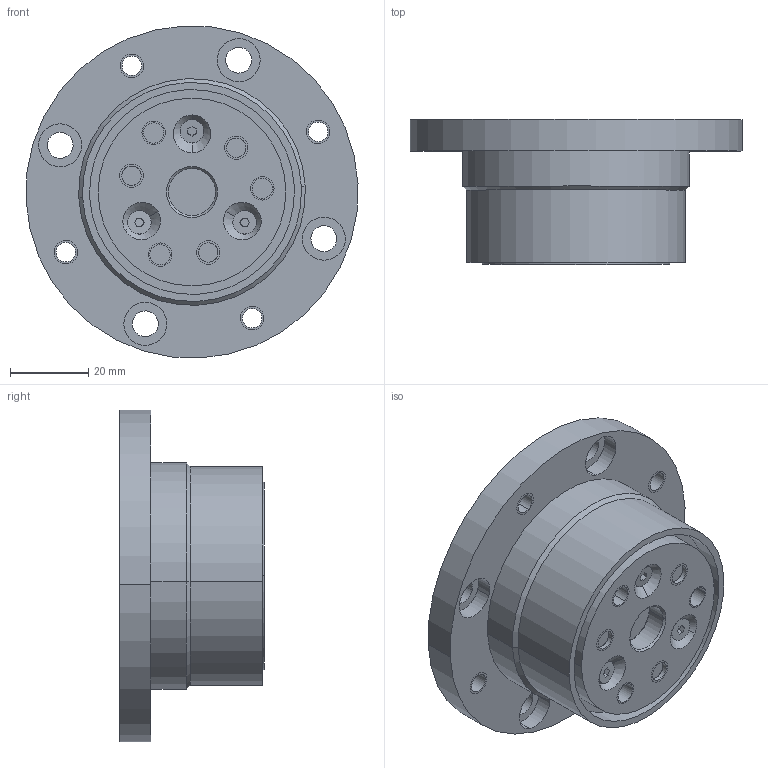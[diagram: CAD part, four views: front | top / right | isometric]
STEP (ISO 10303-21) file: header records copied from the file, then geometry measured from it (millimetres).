
FILE_DESCRIPTION((''),'2;1');
FILE_NAME('B6-040-048','2018-02-27T',('CSW'),(''),'CREO PARAMETRIC BY PTC INC, 2016260','CREO PARAMETRIC BY PTC INC, 2016260','');
FILE_SCHEMA(('AUTOMOTIVE_DESIGN { 1 0 10303 214 1 1 1 1 }'));
Length unit declared in the file: millimetre
Products named in the file (1): B6-040-048
Bounding box: 84.88 x 37 x 84.88 mm (x, y, z)
Volume: 110922.7 mm3; surface area: 26974.4 mm2
Topology: 1 solids, 47 shells, 501 faces, 1112 edges, 694 vertices
Faces by surface type: cylinder 214, plane 197, cone 74, torus 16
Entity records: 14248 total; most frequent: CARTESIAN_POINT 2709, DIRECTION 2582, ORIENTED_EDGE 2084, EDGE_CURVE 1096, AXIS2_PLACEMENT_3D 1024, VERTEX_POINT 694, EDGE_LOOP 598, VECTOR 534
